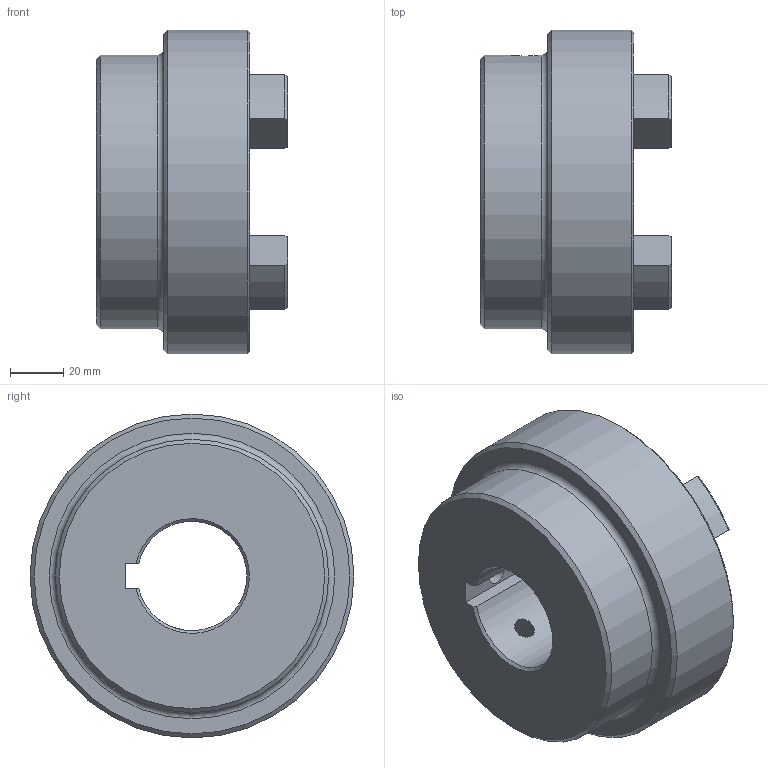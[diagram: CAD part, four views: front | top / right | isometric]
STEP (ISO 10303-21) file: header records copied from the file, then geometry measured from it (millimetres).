
FILE_DESCRIPTION (( 'STEP AP203' ), '1' );
FILE_NAME ('RC5.step', '2024-07-25T13:36:12', ( 'Adlan' ), ( '' ), 'SwSTEP 2.0', 'SolidWorks 2013', '' );
FILE_SCHEMA (( 'CONFIG_CONTROL_DESIGN' ));
Length unit declared in the file: inch
Products named in the file (1): RC5
Bounding box: 72.14 x 122.17 x 122.17 mm (x, y, z)
Volume: 419758.2 mm3; surface area: 59886 mm2
Topology: 1 solids, 1 shells, 83 faces, 210 edges, 131 vertices
Faces by surface type: cylinder 33, plane 19, torus 17, cone 14
Full cylindrical faces by diameter (mm): 7.937 x2, 103.124 x1, 122.174 x1
Entity records: 2789 total; most frequent: CARTESIAN_POINT 708, DIRECTION 446, ORIENTED_EDGE 394, EDGE_CURVE 197, AXIS2_PLACEMENT_3D 178, VERTEX_POINT 128, EDGE_LOOP 101, CIRCLE 94
